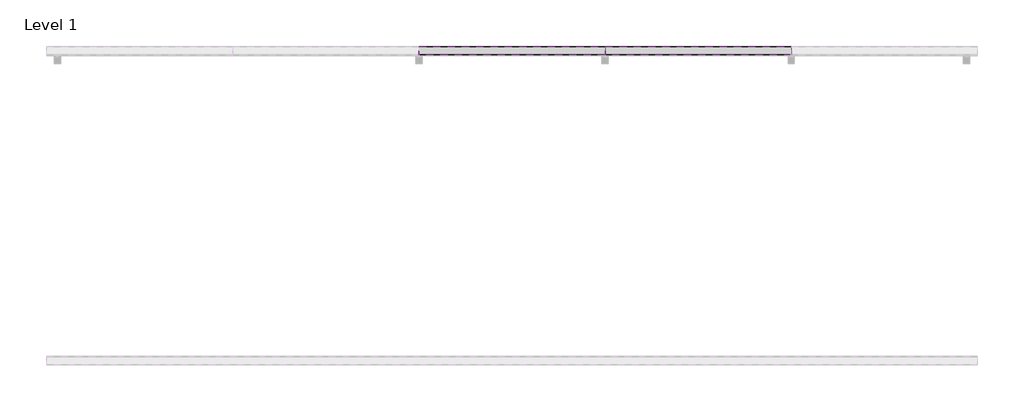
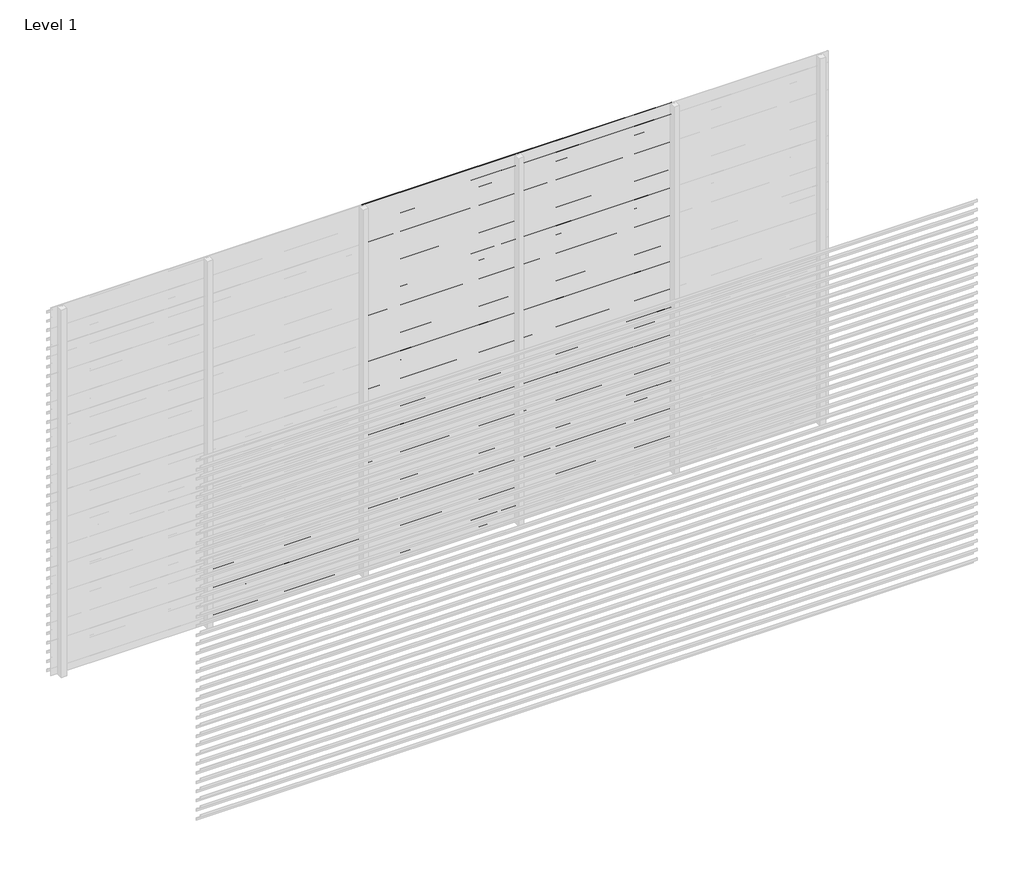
# One storey, part 27 of 55: 84 proxies.
"""IFC4 building model written with IfcOpenShell, lengths in millimetres."""

from ifc_helpers import new_model, si_unit, frame, origin, place, context, project, spatial, polyline, outline, extrude, element, save

model = new_model("IFC4")

# Units and contexts
model_context = context("Model", 3, world=origin())
ifc_project = project(units=[si_unit("LENGTHUNIT", "METRE", prefix="MILLI")], contexts=[model_context])

# Site, building, storey
site = spatial("IfcSite", under=ifc_project)
building = spatial("IfcBuilding", under=site)
storey = spatial("IfcBuildingStorey", under=building, Name="Level 1", Elevation=0.0)

# Proxies
placement = place(None, origin())
element("IfcBuildingElementProxy", 1, Name="Wall Sweeps", at=placement, inside=storey, context=model_context, shape_type="SweptSolid", body=[
    extrude(outline(polyline([(36581.0540136, 393.5), (36581.0540136, 373.5), (36579.8040136, 374.2216933), (36579.8040136, 392.7872415), (36526.0540136, 430.3158044), (36526.0540136, 450.0), (36527.3040136, 450.0), (36527.3040136, 431.0285629), (36581.0540136, 393.5)])), frame((1666.6208099, 0.0, 0.0), z_axis=(1.0, 0.0, 0.0), x_axis=(0.0, 1.0, 0.0)), (0.0, 0.0, 1.0), 1199.9999999),
])
element("IfcBuildingElementProxy", 2, Name="Wall Sweeps", at=placement, inside=storey, context=model_context, shape_type="SweptSolid", body=[
    extrude(outline(polyline([(36581.0540136, 318.5), (36581.0540136, 298.5), (36579.8040136, 299.2216933), (36579.8040136, 317.7872415), (36526.0540136, 355.3158044), (36526.0540136, 375.0), (36527.3040136, 375.0), (36527.3040136, 356.0285629), (36581.0540136, 318.5)])), frame((1666.6208099, 0.0, 0.0), z_axis=(1.0, 0.0, 0.0), x_axis=(0.0, 1.0, 0.0)), (0.0, 0.0, 1.0), 1199.9999999),
])
element("IfcBuildingElementProxy", 3, Name="Wall Sweeps", at=placement, inside=storey, context=model_context, shape_type="SweptSolid", body=[
    extrude(outline(polyline([(36581.0540136, 243.5), (36581.0540136, 223.5), (36579.8040136, 224.2216933), (36579.8040136, 242.7872415), (36526.0540136, 280.3158044), (36526.0540136, 300.0), (36527.3040136, 300.0), (36527.3040136, 281.0285629), (36581.0540136, 243.5)])), frame((1666.6208099, 0.0, 0.0), z_axis=(1.0, 0.0, 0.0), x_axis=(0.0, 1.0, 0.0)), (0.0, 0.0, 1.0), 1199.9999999),
])
element("IfcBuildingElementProxy", 4, Name="Wall Sweeps", at=placement, inside=storey, context=model_context, shape_type="SweptSolid", body=[
    extrude(outline(polyline([(36581.0540136, 168.5), (36581.0540136, 148.5), (36579.8040136, 149.2216933), (36579.8040136, 167.7872415), (36526.0540136, 205.3158044), (36526.0540136, 225.0), (36527.3040136, 225.0), (36527.3040136, 206.0285629), (36581.0540136, 168.5)])), frame((1666.6208099, 0.0, 0.0), z_axis=(1.0, 0.0, 0.0), x_axis=(0.0, 1.0, 0.0)), (0.0, 0.0, 1.0), 1199.9999999),
])
element("IfcBuildingElementProxy", 5, Name="Wall Sweeps", at=placement, inside=storey, context=model_context, shape_type="SweptSolid", body=[
    extrude(outline(polyline([(36581.0540136, 93.5), (36581.0540136, 73.5), (36579.8040136, 74.2216933), (36579.8040136, 92.7872415), (36526.0540136, 130.3158044), (36526.0540136, 150.0), (36527.3040136, 150.0), (36527.3040136, 131.0285629), (36581.0540136, 93.5)])), frame((1666.6208099, 0.0, 0.0), z_axis=(1.0, 0.0, 0.0), x_axis=(0.0, 1.0, 0.0)), (0.0, 0.0, 1.0), 1199.9999999),
])
element("IfcBuildingElementProxy", 6, Name="Wall Sweeps", at=placement, inside=storey, context=model_context, shape_type="SweptSolid", body=[
    extrude(outline(polyline([(36581.0540136, 18.5), (36581.0540136, -1.5), (36579.8040136, -0.7783067), (36579.8040136, 17.7872415), (36526.0540136, 55.3158044), (36526.0540136, 75.0), (36527.3040136, 75.0), (36527.3040136, 56.0285629), (36581.0540136, 18.5)])), frame((1666.6208099, 0.0, 0.0), z_axis=(1.0, 0.0, 0.0), x_axis=(0.0, 1.0, 0.0)), (0.0, 0.0, 1.0), 1199.9999999),
])
element("IfcBuildingElementProxy", 7, Name="Wall Sweeps", at=placement, inside=storey, context=model_context, shape_type="SweptSolid", body=[
    extrude(outline(polyline([(36581.0540136, 2943.5), (36581.0540136, 2923.5), (36579.8040136, 2924.2216933), (36579.8040136, 2942.7872415), (36526.0540136, 2980.3158044), (36526.0540136, 3000.0), (36527.3040136, 3000.0), (36527.3040136, 2981.0285629), (36581.0540136, 2943.5)])), frame((2866.6208097, 0.0, 0.0), z_axis=(1.0, 0.0, 0.0), x_axis=(0.0, 1.0, 0.0)), (0.0, 0.0, 1.0), 1199.9999999),
])
element("IfcBuildingElementProxy", 8, Name="Wall Sweeps", at=placement, inside=storey, context=model_context, shape_type="SweptSolid", body=[
    extrude(outline(polyline([(36581.0540136, 2868.5), (36581.0540136, 2848.5), (36579.8040136, 2849.2216933), (36579.8040136, 2867.7872415), (36526.0540136, 2905.3158044), (36526.0540136, 2925.0), (36527.3040136, 2925.0), (36527.3040136, 2906.0285629), (36581.0540136, 2868.5)])), frame((2866.6208097, 0.0, 0.0), z_axis=(1.0, 0.0, 0.0), x_axis=(0.0, 1.0, 0.0)), (0.0, 0.0, 1.0), 1199.9999999),
])
element("IfcBuildingElementProxy", 9, Name="Wall Sweeps", at=placement, inside=storey, context=model_context, shape_type="SweptSolid", body=[
    extrude(outline(polyline([(36581.0540136, 2793.5), (36581.0540136, 2773.5), (36579.8040136, 2774.2216933), (36579.8040136, 2792.7872415), (36526.0540136, 2830.3158044), (36526.0540136, 2850.0), (36527.3040136, 2850.0), (36527.3040136, 2831.0285629), (36581.0540136, 2793.5)])), frame((2866.6208097, 0.0, 0.0), z_axis=(1.0, 0.0, 0.0), x_axis=(0.0, 1.0, 0.0)), (0.0, 0.0, 1.0), 1199.9999999),
])
element("IfcBuildingElementProxy", 10, Name="Wall Sweeps", at=placement, inside=storey, context=model_context, shape_type="SweptSolid", body=[
    extrude(outline(polyline([(36581.0540136, 2718.5), (36581.0540136, 2698.5), (36579.8040136, 2699.2216933), (36579.8040136, 2717.7872415), (36526.0540136, 2755.3158044), (36526.0540136, 2775.0), (36527.3040136, 2775.0), (36527.3040136, 2756.0285629), (36581.0540136, 2718.5)])), frame((2866.6208097, 0.0, 0.0), z_axis=(1.0, 0.0, 0.0), x_axis=(0.0, 1.0, 0.0)), (0.0, 0.0, 1.0), 1199.9999999),
])
element("IfcBuildingElementProxy", 11, Name="Wall Sweeps", at=placement, inside=storey, context=model_context, shape_type="SweptSolid", body=[
    extrude(outline(polyline([(36581.0540136, 2643.5), (36581.0540136, 2623.5), (36579.8040136, 2624.2216933), (36579.8040136, 2642.7872415), (36526.0540136, 2680.3158044), (36526.0540136, 2700.0), (36527.3040136, 2700.0), (36527.3040136, 2681.0285629), (36581.0540136, 2643.5)])), frame((2866.6208097, 0.0, 0.0), z_axis=(1.0, 0.0, 0.0), x_axis=(0.0, 1.0, 0.0)), (0.0, 0.0, 1.0), 1199.9999999),
])
element("IfcBuildingElementProxy", 12, Name="Wall Sweeps", at=placement, inside=storey, context=model_context, shape_type="SweptSolid", body=[
    extrude(outline(polyline([(36581.0540136, 2568.5), (36581.0540136, 2548.5), (36579.8040136, 2549.2216933), (36579.8040136, 2567.7872415), (36526.0540136, 2605.3158044), (36526.0540136, 2625.0), (36527.3040136, 2625.0), (36527.3040136, 2606.0285629), (36581.0540136, 2568.5)])), frame((2866.6208097, 0.0, 0.0), z_axis=(1.0, 0.0, 0.0), x_axis=(0.0, 1.0, 0.0)), (0.0, 0.0, 1.0), 1199.9999999),
])
element("IfcBuildingElementProxy", 13, Name="Wall Sweeps", at=placement, inside=storey, context=model_context, shape_type="SweptSolid", body=[
    extrude(outline(polyline([(36581.0540136, 2493.5), (36581.0540136, 2473.5), (36579.8040136, 2474.2216933), (36579.8040136, 2492.7872415), (36526.0540136, 2530.3158044), (36526.0540136, 2550.0), (36527.3040136, 2550.0), (36527.3040136, 2531.0285629), (36581.0540136, 2493.5)])), frame((2866.6208097, 0.0, 0.0), z_axis=(1.0, 0.0, 0.0), x_axis=(0.0, 1.0, 0.0)), (0.0, 0.0, 1.0), 1199.9999999),
])
element("IfcBuildingElementProxy", 14, Name="Wall Sweeps", at=placement, inside=storey, context=model_context, shape_type="SweptSolid", body=[
    extrude(outline(polyline([(36581.0540136, 2418.5), (36581.0540136, 2398.5), (36579.8040136, 2399.2216933), (36579.8040136, 2417.7872415), (36526.0540136, 2455.3158044), (36526.0540136, 2475.0), (36527.3040136, 2475.0), (36527.3040136, 2456.0285629), (36581.0540136, 2418.5)])), frame((2866.6208097, 0.0, 0.0), z_axis=(1.0, 0.0, 0.0), x_axis=(0.0, 1.0, 0.0)), (0.0, 0.0, 1.0), 1199.9999999),
])
element("IfcBuildingElementProxy", 15, Name="Wall Sweeps", at=placement, inside=storey, context=model_context, shape_type="SweptSolid", body=[
    extrude(outline(polyline([(36581.0540136, 2343.5), (36581.0540136, 2323.5), (36579.8040136, 2324.2216933), (36579.8040136, 2342.7872415), (36526.0540136, 2380.3158044), (36526.0540136, 2400.0), (36527.3040136, 2400.0), (36527.3040136, 2381.0285629), (36581.0540136, 2343.5)])), frame((2866.6208097, 0.0, 0.0), z_axis=(1.0, 0.0, 0.0), x_axis=(0.0, 1.0, 0.0)), (0.0, 0.0, 1.0), 1199.9999999),
])
element("IfcBuildingElementProxy", 16, Name="Wall Sweeps", at=placement, inside=storey, context=model_context, shape_type="SweptSolid", body=[
    extrude(outline(polyline([(36581.0540136, 2268.5), (36581.0540136, 2248.5), (36579.8040136, 2249.2216933), (36579.8040136, 2267.7872415), (36526.0540136, 2305.3158044), (36526.0540136, 2325.0), (36527.3040136, 2325.0), (36527.3040136, 2306.0285629), (36581.0540136, 2268.5)])), frame((2866.6208097, 0.0, 0.0), z_axis=(1.0, 0.0, 0.0), x_axis=(0.0, 1.0, 0.0)), (0.0, 0.0, 1.0), 1199.9999999),
])
element("IfcBuildingElementProxy", 17, Name="Wall Sweeps", at=placement, inside=storey, context=model_context, shape_type="SweptSolid", body=[
    extrude(outline(polyline([(36581.0540136, 2193.5), (36581.0540136, 2173.5), (36579.8040136, 2174.2216933), (36579.8040136, 2192.7872415), (36526.0540136, 2230.3158044), (36526.0540136, 2250.0), (36527.3040136, 2250.0), (36527.3040136, 2231.0285629), (36581.0540136, 2193.5)])), frame((2866.6208097, 0.0, 0.0), z_axis=(1.0, 0.0, 0.0), x_axis=(0.0, 1.0, 0.0)), (0.0, 0.0, 1.0), 1199.9999999),
])
element("IfcBuildingElementProxy", 18, Name="Wall Sweeps", at=placement, inside=storey, context=model_context, shape_type="SweptSolid", body=[
    extrude(outline(polyline([(36581.0540136, 2118.5), (36581.0540136, 2098.5), (36579.8040136, 2099.2216933), (36579.8040136, 2117.7872415), (36526.0540136, 2155.3158044), (36526.0540136, 2175.0), (36527.3040136, 2175.0), (36527.3040136, 2156.0285629), (36581.0540136, 2118.5)])), frame((2866.6208097, 0.0, 0.0), z_axis=(1.0, 0.0, 0.0), x_axis=(0.0, 1.0, 0.0)), (0.0, 0.0, 1.0), 1199.9999999),
])
element("IfcBuildingElementProxy", 19, Name="Wall Sweeps", at=placement, inside=storey, context=model_context, shape_type="SweptSolid", body=[
    extrude(outline(polyline([(36581.0540136, 2043.5), (36581.0540136, 2023.5), (36579.8040136, 2024.2216933), (36579.8040136, 2042.7872415), (36526.0540136, 2080.3158044), (36526.0540136, 2100.0), (36527.3040136, 2100.0), (36527.3040136, 2081.0285629), (36581.0540136, 2043.5)])), frame((2866.6208097, 0.0, 0.0), z_axis=(1.0, 0.0, 0.0), x_axis=(0.0, 1.0, 0.0)), (0.0, 0.0, 1.0), 1199.9999999),
])
element("IfcBuildingElementProxy", 20, Name="Wall Sweeps", at=placement, inside=storey, context=model_context, shape_type="SweptSolid", body=[
    extrude(outline(polyline([(36581.0540136, 1968.5), (36581.0540136, 1948.5), (36579.8040136, 1949.2216933), (36579.8040136, 1967.7872415), (36526.0540136, 2005.3158044), (36526.0540136, 2025.0), (36527.3040136, 2025.0), (36527.3040136, 2006.0285629), (36581.0540136, 1968.5)])), frame((2866.6208097, 0.0, 0.0), z_axis=(1.0, 0.0, 0.0), x_axis=(0.0, 1.0, 0.0)), (0.0, 0.0, 1.0), 1199.9999999),
])
element("IfcBuildingElementProxy", 21, Name="Wall Sweeps", at=placement, inside=storey, context=model_context, shape_type="SweptSolid", body=[
    extrude(outline(polyline([(36581.0540136, 1893.5), (36581.0540136, 1873.5), (36579.8040136, 1874.2216933), (36579.8040136, 1892.7872415), (36526.0540136, 1930.3158044), (36526.0540136, 1950.0), (36527.3040136, 1950.0), (36527.3040136, 1931.0285629), (36581.0540136, 1893.5)])), frame((2866.6208097, 0.0, 0.0), z_axis=(1.0, 0.0, 0.0), x_axis=(0.0, 1.0, 0.0)), (0.0, 0.0, 1.0), 1199.9999999),
])
element("IfcBuildingElementProxy", 22, Name="Wall Sweeps", at=placement, inside=storey, context=model_context, shape_type="SweptSolid", body=[
    extrude(outline(polyline([(36581.0540136, 1818.5), (36581.0540136, 1798.5), (36579.8040136, 1799.2216933), (36579.8040136, 1817.7872415), (36526.0540136, 1855.3158044), (36526.0540136, 1875.0), (36527.3040136, 1875.0), (36527.3040136, 1856.0285629), (36581.0540136, 1818.5)])), frame((2866.6208097, 0.0, 0.0), z_axis=(1.0, 0.0, 0.0), x_axis=(0.0, 1.0, 0.0)), (0.0, 0.0, 1.0), 1199.9999999),
])
element("IfcBuildingElementProxy", 23, Name="Wall Sweeps", at=placement, inside=storey, context=model_context, shape_type="SweptSolid", body=[
    extrude(outline(polyline([(36581.0540136, 1743.5), (36581.0540136, 1723.5), (36579.8040136, 1724.2216933), (36579.8040136, 1742.7872415), (36526.0540136, 1780.3158044), (36526.0540136, 1800.0), (36527.3040136, 1800.0), (36527.3040136, 1781.0285629), (36581.0540136, 1743.5)])), frame((2866.6208097, 0.0, 0.0), z_axis=(1.0, 0.0, 0.0), x_axis=(0.0, 1.0, 0.0)), (0.0, 0.0, 1.0), 1199.9999999),
])
element("IfcBuildingElementProxy", 24, Name="Wall Sweeps", at=placement, inside=storey, context=model_context, shape_type="SweptSolid", body=[
    extrude(outline(polyline([(36581.0540136, 1668.5), (36581.0540136, 1648.5), (36579.8040136, 1649.2216933), (36579.8040136, 1667.7872415), (36526.0540136, 1705.3158044), (36526.0540136, 1725.0), (36527.3040136, 1725.0), (36527.3040136, 1706.0285629), (36581.0540136, 1668.5)])), frame((2866.6208097, 0.0, 0.0), z_axis=(1.0, 0.0, 0.0), x_axis=(0.0, 1.0, 0.0)), (0.0, 0.0, 1.0), 1199.9999999),
])
element("IfcBuildingElementProxy", 25, Name="Wall Sweeps", at=placement, inside=storey, context=model_context, shape_type="SweptSolid", body=[
    extrude(outline(polyline([(36581.0540136, 1593.5), (36581.0540136, 1573.5), (36579.8040136, 1574.2216933), (36579.8040136, 1592.7872415), (36526.0540136, 1630.3158044), (36526.0540136, 1650.0), (36527.3040136, 1650.0), (36527.3040136, 1631.0285629), (36581.0540136, 1593.5)])), frame((2866.6208097, 0.0, 0.0), z_axis=(1.0, 0.0, 0.0), x_axis=(0.0, 1.0, 0.0)), (0.0, 0.0, 1.0), 1199.9999999),
])
element("IfcBuildingElementProxy", 26, Name="Wall Sweeps", at=placement, inside=storey, context=model_context, shape_type="SweptSolid", body=[
    extrude(outline(polyline([(36581.0540136, 1518.5), (36581.0540136, 1498.5), (36579.8040136, 1499.2216933), (36579.8040136, 1517.7872415), (36526.0540136, 1555.3158044), (36526.0540136, 1575.0), (36527.3040136, 1575.0), (36527.3040136, 1556.0285629), (36581.0540136, 1518.5)])), frame((2866.6208097, 0.0, 0.0), z_axis=(1.0, 0.0, 0.0), x_axis=(0.0, 1.0, 0.0)), (0.0, 0.0, 1.0), 1199.9999999),
])
element("IfcBuildingElementProxy", 27, Name="Wall Sweeps", at=placement, inside=storey, context=model_context, shape_type="SweptSolid", body=[
    extrude(outline(polyline([(36581.0540136, 1443.5), (36581.0540136, 1423.5), (36579.8040136, 1424.2216933), (36579.8040136, 1442.7872415), (36526.0540136, 1480.3158044), (36526.0540136, 1500.0), (36527.3040136, 1500.0), (36527.3040136, 1481.0285629), (36581.0540136, 1443.5)])), frame((2866.6208097, 0.0, 0.0), z_axis=(1.0, 0.0, 0.0), x_axis=(0.0, 1.0, 0.0)), (0.0, 0.0, 1.0), 1199.9999999),
])
element("IfcBuildingElementProxy", 28, Name="Wall Sweeps", at=placement, inside=storey, context=model_context, shape_type="SweptSolid", body=[
    extrude(outline(polyline([(36581.0540136, 1368.5), (36581.0540136, 1348.5), (36579.8040136, 1349.2216933), (36579.8040136, 1367.7872415), (36526.0540136, 1405.3158044), (36526.0540136, 1425.0), (36527.3040136, 1425.0), (36527.3040136, 1406.0285629), (36581.0540136, 1368.5)])), frame((2866.6208097, 0.0, 0.0), z_axis=(1.0, 0.0, 0.0), x_axis=(0.0, 1.0, 0.0)), (0.0, 0.0, 1.0), 1199.9999999),
])
element("IfcBuildingElementProxy", 29, Name="Wall Sweeps", at=placement, inside=storey, context=model_context, shape_type="SweptSolid", body=[
    extrude(outline(polyline([(36581.0540136, 1293.5), (36581.0540136, 1273.5), (36579.8040136, 1274.2216933), (36579.8040136, 1292.7872415), (36526.0540136, 1330.3158044), (36526.0540136, 1350.0), (36527.3040136, 1350.0), (36527.3040136, 1331.0285629), (36581.0540136, 1293.5)])), frame((2866.6208097, 0.0, 0.0), z_axis=(1.0, 0.0, 0.0), x_axis=(0.0, 1.0, 0.0)), (0.0, 0.0, 1.0), 1199.9999999),
])
element("IfcBuildingElementProxy", 30, Name="Wall Sweeps", at=placement, inside=storey, context=model_context, shape_type="SweptSolid", body=[
    extrude(outline(polyline([(36581.0540136, 1218.5), (36581.0540136, 1198.5), (36579.8040136, 1199.2216933), (36579.8040136, 1217.7872415), (36526.0540136, 1255.3158044), (36526.0540136, 1275.0), (36527.3040136, 1275.0), (36527.3040136, 1256.0285629), (36581.0540136, 1218.5)])), frame((2866.6208097, 0.0, 0.0), z_axis=(1.0, 0.0, 0.0), x_axis=(0.0, 1.0, 0.0)), (0.0, 0.0, 1.0), 1199.9999999),
])
element("IfcBuildingElementProxy", 31, Name="Wall Sweeps", at=placement, inside=storey, context=model_context, shape_type="SweptSolid", body=[
    extrude(outline(polyline([(36581.0540136, 1143.5), (36581.0540136, 1123.5), (36579.8040136, 1124.2216933), (36579.8040136, 1142.7872415), (36526.0540136, 1180.3158044), (36526.0540136, 1200.0), (36527.3040136, 1200.0), (36527.3040136, 1181.0285629), (36581.0540136, 1143.5)])), frame((2866.6208097, 0.0, 0.0), z_axis=(1.0, 0.0, 0.0), x_axis=(0.0, 1.0, 0.0)), (0.0, 0.0, 1.0), 1199.9999999),
])
element("IfcBuildingElementProxy", 32, Name="Wall Sweeps", at=placement, inside=storey, context=model_context, shape_type="SweptSolid", body=[
    extrude(outline(polyline([(36581.0540136, 1068.5), (36581.0540136, 1048.5), (36579.8040136, 1049.2216933), (36579.8040136, 1067.7872415), (36526.0540136, 1105.3158044), (36526.0540136, 1125.0), (36527.3040136, 1125.0), (36527.3040136, 1106.0285629), (36581.0540136, 1068.5)])), frame((2866.6208097, 0.0, 0.0), z_axis=(1.0, 0.0, 0.0), x_axis=(0.0, 1.0, 0.0)), (0.0, 0.0, 1.0), 1199.9999999),
])
element("IfcBuildingElementProxy", 33, Name="Wall Sweeps", at=placement, inside=storey, context=model_context, shape_type="SweptSolid", body=[
    extrude(outline(polyline([(36581.0540136, 993.5), (36581.0540136, 973.5), (36579.8040136, 974.2216933), (36579.8040136, 992.7872415), (36526.0540136, 1030.3158044), (36526.0540136, 1050.0), (36527.3040136, 1050.0), (36527.3040136, 1031.0285629), (36581.0540136, 993.5)])), frame((2866.6208097, 0.0, 0.0), z_axis=(1.0, 0.0, 0.0), x_axis=(0.0, 1.0, 0.0)), (0.0, 0.0, 1.0), 1199.9999999),
])
element("IfcBuildingElementProxy", 34, Name="Wall Sweeps", at=placement, inside=storey, context=model_context, shape_type="SweptSolid", body=[
    extrude(outline(polyline([(36581.0540136, 918.5), (36581.0540136, 898.5), (36579.8040136, 899.2216933), (36579.8040136, 917.7872415), (36526.0540136, 955.3158044), (36526.0540136, 975.0), (36527.3040136, 975.0), (36527.3040136, 956.0285629), (36581.0540136, 918.5)])), frame((2866.6208097, 0.0, 0.0), z_axis=(1.0, 0.0, 0.0), x_axis=(0.0, 1.0, 0.0)), (0.0, 0.0, 1.0), 1199.9999999),
])
element("IfcBuildingElementProxy", 35, Name="Wall Sweeps", at=placement, inside=storey, context=model_context, shape_type="SweptSolid", body=[
    extrude(outline(polyline([(36581.0540136, 843.5), (36581.0540136, 823.5), (36579.8040136, 824.2216933), (36579.8040136, 842.7872415), (36526.0540136, 880.3158044), (36526.0540136, 900.0), (36527.3040136, 900.0), (36527.3040136, 881.0285629), (36581.0540136, 843.5)])), frame((2866.6208097, 0.0, 0.0), z_axis=(1.0, 0.0, 0.0), x_axis=(0.0, 1.0, 0.0)), (0.0, 0.0, 1.0), 1199.9999999),
])
element("IfcBuildingElementProxy", 36, Name="Wall Sweeps", at=placement, inside=storey, context=model_context, shape_type="SweptSolid", body=[
    extrude(outline(polyline([(36581.0540136, 768.5), (36581.0540136, 748.5), (36579.8040136, 749.2216933), (36579.8040136, 767.7872415), (36526.0540136, 805.3158044), (36526.0540136, 825.0), (36527.3040136, 825.0), (36527.3040136, 806.0285629), (36581.0540136, 768.5)])), frame((2866.6208097, 0.0, 0.0), z_axis=(1.0, 0.0, 0.0), x_axis=(0.0, 1.0, 0.0)), (0.0, 0.0, 1.0), 1199.9999999),
])
element("IfcBuildingElementProxy", 37, Name="Wall Sweeps", at=placement, inside=storey, context=model_context, shape_type="SweptSolid", body=[
    extrude(outline(polyline([(36581.0540136, 693.5), (36581.0540136, 673.5), (36579.8040136, 674.2216933), (36579.8040136, 692.7872415), (36526.0540136, 730.3158044), (36526.0540136, 750.0), (36527.3040136, 750.0), (36527.3040136, 731.0285629), (36581.0540136, 693.5)])), frame((2866.6208097, 0.0, 0.0), z_axis=(1.0, 0.0, 0.0), x_axis=(0.0, 1.0, 0.0)), (0.0, 0.0, 1.0), 1199.9999999),
])
element("IfcBuildingElementProxy", 38, Name="Wall Sweeps", at=placement, inside=storey, context=model_context, shape_type="SweptSolid", body=[
    extrude(outline(polyline([(36581.0540136, 618.5), (36581.0540136, 598.5), (36579.8040136, 599.2216933), (36579.8040136, 617.7872415), (36526.0540136, 655.3158044), (36526.0540136, 675.0), (36527.3040136, 675.0), (36527.3040136, 656.0285629), (36581.0540136, 618.5)])), frame((2866.6208097, 0.0, 0.0), z_axis=(1.0, 0.0, 0.0), x_axis=(0.0, 1.0, 0.0)), (0.0, 0.0, 1.0), 1199.9999999),
])
element("IfcBuildingElementProxy", 39, Name="Wall Sweeps", at=placement, inside=storey, context=model_context, shape_type="SweptSolid", body=[
    extrude(outline(polyline([(36581.0540136, 543.5), (36581.0540136, 523.5), (36579.8040136, 524.2216933), (36579.8040136, 542.7872415), (36526.0540136, 580.3158044), (36526.0540136, 600.0), (36527.3040136, 600.0), (36527.3040136, 581.0285629), (36581.0540136, 543.5)])), frame((2866.6208097, 0.0, 0.0), z_axis=(1.0, 0.0, 0.0), x_axis=(0.0, 1.0, 0.0)), (0.0, 0.0, 1.0), 1199.9999999),
])
element("IfcBuildingElementProxy", 40, Name="Wall Sweeps", at=placement, inside=storey, context=model_context, shape_type="SweptSolid", body=[
    extrude(outline(polyline([(36581.0540136, 468.5), (36581.0540136, 448.5), (36579.8040136, 449.2216933), (36579.8040136, 467.7872415), (36526.0540136, 505.3158044), (36526.0540136, 525.0), (36527.3040136, 525.0), (36527.3040136, 506.0285629), (36581.0540136, 468.5)])), frame((2866.6208097, 0.0, 0.0), z_axis=(1.0, 0.0, 0.0), x_axis=(0.0, 1.0, 0.0)), (0.0, 0.0, 1.0), 1199.9999999),
])
element("IfcBuildingElementProxy", 41, Name="Wall Sweeps", at=placement, inside=storey, context=model_context, shape_type="SweptSolid", body=[
    extrude(outline(polyline([(36581.0540136, 393.5), (36581.0540136, 373.5), (36579.8040136, 374.2216933), (36579.8040136, 392.7872415), (36526.0540136, 430.3158044), (36526.0540136, 450.0), (36527.3040136, 450.0), (36527.3040136, 431.0285629), (36581.0540136, 393.5)])), frame((2866.6208097, 0.0, 0.0), z_axis=(1.0, 0.0, 0.0), x_axis=(0.0, 1.0, 0.0)), (0.0, 0.0, 1.0), 1199.9999999),
])
element("IfcBuildingElementProxy", 42, Name="Wall Sweeps", at=placement, inside=storey, context=model_context, shape_type="SweptSolid", body=[
    extrude(outline(polyline([(36581.0540136, 318.5), (36581.0540136, 298.5), (36579.8040136, 299.2216933), (36579.8040136, 317.7872415), (36526.0540136, 355.3158044), (36526.0540136, 375.0), (36527.3040136, 375.0), (36527.3040136, 356.0285629), (36581.0540136, 318.5)])), frame((2866.6208097, 0.0, 0.0), z_axis=(1.0, 0.0, 0.0), x_axis=(0.0, 1.0, 0.0)), (0.0, 0.0, 1.0), 1199.9999999),
])
element("IfcBuildingElementProxy", 43, Name="Wall Sweeps", at=placement, inside=storey, context=model_context, shape_type="SweptSolid", body=[
    extrude(outline(polyline([(36581.0540136, 243.5), (36581.0540136, 223.5), (36579.8040136, 224.2216933), (36579.8040136, 242.7872415), (36526.0540136, 280.3158044), (36526.0540136, 300.0), (36527.3040136, 300.0), (36527.3040136, 281.0285629), (36581.0540136, 243.5)])), frame((2866.6208097, 0.0, 0.0), z_axis=(1.0, 0.0, 0.0), x_axis=(0.0, 1.0, 0.0)), (0.0, 0.0, 1.0), 1199.9999999),
])
element("IfcBuildingElementProxy", 44, Name="Wall Sweeps", at=placement, inside=storey, context=model_context, shape_type="SweptSolid", body=[
    extrude(outline(polyline([(36581.0540136, 168.5), (36581.0540136, 148.5), (36579.8040136, 149.2216933), (36579.8040136, 167.7872415), (36526.0540136, 205.3158044), (36526.0540136, 225.0), (36527.3040136, 225.0), (36527.3040136, 206.0285629), (36581.0540136, 168.5)])), frame((2866.6208097, 0.0, 0.0), z_axis=(1.0, 0.0, 0.0), x_axis=(0.0, 1.0, 0.0)), (0.0, 0.0, 1.0), 1199.9999999),
])
element("IfcBuildingElementProxy", 45, Name="Wall Sweeps", at=placement, inside=storey, context=model_context, shape_type="SweptSolid", body=[
    extrude(outline(polyline([(36581.0540136, 93.5), (36581.0540136, 73.5), (36579.8040136, 74.2216933), (36579.8040136, 92.7872415), (36526.0540136, 130.3158044), (36526.0540136, 150.0), (36527.3040136, 150.0), (36527.3040136, 131.0285629), (36581.0540136, 93.5)])), frame((2866.6208097, 0.0, 0.0), z_axis=(1.0, 0.0, 0.0), x_axis=(0.0, 1.0, 0.0)), (0.0, 0.0, 1.0), 1199.9999999),
])
element("IfcBuildingElementProxy", 46, Name="Wall Sweeps", at=placement, inside=storey, context=model_context, shape_type="SweptSolid", body=[
    extrude(outline(polyline([(36581.0540136, 18.5), (36581.0540136, -1.5), (36579.8040136, -0.7783067), (36579.8040136, 17.7872415), (36526.0540136, 55.3158044), (36526.0540136, 75.0), (36527.3040136, 75.0), (36527.3040136, 56.0285629), (36581.0540136, 18.5)])), frame((2866.6208097, 0.0, 0.0), z_axis=(1.0, 0.0, 0.0), x_axis=(0.0, 1.0, 0.0)), (0.0, 0.0, 1.0), 1199.9999999),
])
element("IfcBuildingElementProxy", 47, Name="Wall Sweeps", at=placement, inside=storey, context=model_context, shape_type="SweptSolid", body=[
    extrude(outline(polyline([(36581.0540136, 2943.5), (36581.0540136, 2923.5), (36579.8040136, 2924.2216933), (36579.8040136, 2942.7872415), (36526.0540136, 2980.3158044), (36526.0540136, 3000.0), (36527.3040136, 3000.0), (36527.3040136, 2981.0285629), (36581.0540136, 2943.5)])), frame((4066.6208096, 0.0, 0.0), z_axis=(1.0, 0.0, 0.0), x_axis=(0.0, 1.0, 0.0)), (0.0, 0.0, 1.0), 1199.9999999),
])
element("IfcBuildingElementProxy", 48, Name="Wall Sweeps", at=placement, inside=storey, context=model_context, shape_type="SweptSolid", body=[
    extrude(outline(polyline([(36581.0540136, 2868.5), (36581.0540136, 2848.5), (36579.8040136, 2849.2216933), (36579.8040136, 2867.7872415), (36526.0540136, 2905.3158044), (36526.0540136, 2925.0), (36527.3040136, 2925.0), (36527.3040136, 2906.0285629), (36581.0540136, 2868.5)])), frame((4066.6208096, 0.0, 0.0), z_axis=(1.0, 0.0, 0.0), x_axis=(0.0, 1.0, 0.0)), (0.0, 0.0, 1.0), 1199.9999999),
])
element("IfcBuildingElementProxy", 49, Name="Wall Sweeps", at=placement, inside=storey, context=model_context, shape_type="SweptSolid", body=[
    extrude(outline(polyline([(36581.0540136, 2793.5), (36581.0540136, 2773.5), (36579.8040136, 2774.2216933), (36579.8040136, 2792.7872415), (36526.0540136, 2830.3158044), (36526.0540136, 2850.0), (36527.3040136, 2850.0), (36527.3040136, 2831.0285629), (36581.0540136, 2793.5)])), frame((4066.6208096, 0.0, 0.0), z_axis=(1.0, 0.0, 0.0), x_axis=(0.0, 1.0, 0.0)), (0.0, 0.0, 1.0), 1199.9999999),
])
element("IfcBuildingElementProxy", 50, Name="Wall Sweeps", at=placement, inside=storey, context=model_context, shape_type="SweptSolid", body=[
    extrude(outline(polyline([(36581.0540136, 2718.5), (36581.0540136, 2698.5), (36579.8040136, 2699.2216933), (36579.8040136, 2717.7872415), (36526.0540136, 2755.3158044), (36526.0540136, 2775.0), (36527.3040136, 2775.0), (36527.3040136, 2756.0285629), (36581.0540136, 2718.5)])), frame((4066.6208096, 0.0, 0.0), z_axis=(1.0, 0.0, 0.0), x_axis=(0.0, 1.0, 0.0)), (0.0, 0.0, 1.0), 1199.9999999),
])
element("IfcBuildingElementProxy", 51, Name="Wall Sweeps", at=placement, inside=storey, context=model_context, shape_type="SweptSolid", body=[
    extrude(outline(polyline([(36581.0540136, 2643.5), (36581.0540136, 2623.5), (36579.8040136, 2624.2216933), (36579.8040136, 2642.7872415), (36526.0540136, 2680.3158044), (36526.0540136, 2700.0), (36527.3040136, 2700.0), (36527.3040136, 2681.0285629), (36581.0540136, 2643.5)])), frame((4066.6208096, 0.0, 0.0), z_axis=(1.0, 0.0, 0.0), x_axis=(0.0, 1.0, 0.0)), (0.0, 0.0, 1.0), 1199.9999999),
])
element("IfcBuildingElementProxy", 52, Name="Wall Sweeps", at=placement, inside=storey, context=model_context, shape_type="SweptSolid", body=[
    extrude(outline(polyline([(36581.0540136, 2568.5), (36581.0540136, 2548.5), (36579.8040136, 2549.2216933), (36579.8040136, 2567.7872415), (36526.0540136, 2605.3158044), (36526.0540136, 2625.0), (36527.3040136, 2625.0), (36527.3040136, 2606.0285629), (36581.0540136, 2568.5)])), frame((4066.6208096, 0.0, 0.0), z_axis=(1.0, 0.0, 0.0), x_axis=(0.0, 1.0, 0.0)), (0.0, 0.0, 1.0), 1199.9999999),
])
element("IfcBuildingElementProxy", 53, Name="Wall Sweeps", at=placement, inside=storey, context=model_context, shape_type="SweptSolid", body=[
    extrude(outline(polyline([(36581.0540136, 2493.5), (36581.0540136, 2473.5), (36579.8040136, 2474.2216933), (36579.8040136, 2492.7872415), (36526.0540136, 2530.3158044), (36526.0540136, 2550.0), (36527.3040136, 2550.0), (36527.3040136, 2531.0285629), (36581.0540136, 2493.5)])), frame((4066.6208096, 0.0, 0.0), z_axis=(1.0, 0.0, 0.0), x_axis=(0.0, 1.0, 0.0)), (0.0, 0.0, 1.0), 1199.9999999),
])
element("IfcBuildingElementProxy", 54, Name="Wall Sweeps", at=placement, inside=storey, context=model_context, shape_type="SweptSolid", body=[
    extrude(outline(polyline([(36581.0540136, 2418.5), (36581.0540136, 2398.5), (36579.8040136, 2399.2216933), (36579.8040136, 2417.7872415), (36526.0540136, 2455.3158044), (36526.0540136, 2475.0), (36527.3040136, 2475.0), (36527.3040136, 2456.0285629), (36581.0540136, 2418.5)])), frame((4066.6208096, 0.0, 0.0), z_axis=(1.0, 0.0, 0.0), x_axis=(0.0, 1.0, 0.0)), (0.0, 0.0, 1.0), 1199.9999999),
])
element("IfcBuildingElementProxy", 55, Name="Wall Sweeps", at=placement, inside=storey, context=model_context, shape_type="SweptSolid", body=[
    extrude(outline(polyline([(36581.0540136, 2343.5), (36581.0540136, 2323.5), (36579.8040136, 2324.2216933), (36579.8040136, 2342.7872415), (36526.0540136, 2380.3158044), (36526.0540136, 2400.0), (36527.3040136, 2400.0), (36527.3040136, 2381.0285629), (36581.0540136, 2343.5)])), frame((4066.6208096, 0.0, 0.0), z_axis=(1.0, 0.0, 0.0), x_axis=(0.0, 1.0, 0.0)), (0.0, 0.0, 1.0), 1199.9999999),
])
element("IfcBuildingElementProxy", 56, Name="Wall Sweeps", at=placement, inside=storey, context=model_context, shape_type="SweptSolid", body=[
    extrude(outline(polyline([(36581.0540136, 2268.5), (36581.0540136, 2248.5), (36579.8040136, 2249.2216933), (36579.8040136, 2267.7872415), (36526.0540136, 2305.3158044), (36526.0540136, 2325.0), (36527.3040136, 2325.0), (36527.3040136, 2306.0285629), (36581.0540136, 2268.5)])), frame((4066.6208096, 0.0, 0.0), z_axis=(1.0, 0.0, 0.0), x_axis=(0.0, 1.0, 0.0)), (0.0, 0.0, 1.0), 1199.9999999),
])
element("IfcBuildingElementProxy", 57, Name="Wall Sweeps", at=placement, inside=storey, context=model_context, shape_type="SweptSolid", body=[
    extrude(outline(polyline([(36581.0540136, 2193.5), (36581.0540136, 2173.5), (36579.8040136, 2174.2216933), (36579.8040136, 2192.7872415), (36526.0540136, 2230.3158044), (36526.0540136, 2250.0), (36527.3040136, 2250.0), (36527.3040136, 2231.0285629), (36581.0540136, 2193.5)])), frame((4066.6208096, 0.0, 0.0), z_axis=(1.0, 0.0, 0.0), x_axis=(0.0, 1.0, 0.0)), (0.0, 0.0, 1.0), 1199.9999999),
])
element("IfcBuildingElementProxy", 58, Name="Wall Sweeps", at=placement, inside=storey, context=model_context, shape_type="SweptSolid", body=[
    extrude(outline(polyline([(36581.0540136, 2118.5), (36581.0540136, 2098.5), (36579.8040136, 2099.2216933), (36579.8040136, 2117.7872415), (36526.0540136, 2155.3158044), (36526.0540136, 2175.0), (36527.3040136, 2175.0), (36527.3040136, 2156.0285629), (36581.0540136, 2118.5)])), frame((4066.6208096, 0.0, 0.0), z_axis=(1.0, 0.0, 0.0), x_axis=(0.0, 1.0, 0.0)), (0.0, 0.0, 1.0), 1199.9999999),
])
element("IfcBuildingElementProxy", 59, Name="Wall Sweeps", at=placement, inside=storey, context=model_context, shape_type="SweptSolid", body=[
    extrude(outline(polyline([(36581.0540136, 2043.5), (36581.0540136, 2023.5), (36579.8040136, 2024.2216933), (36579.8040136, 2042.7872415), (36526.0540136, 2080.3158044), (36526.0540136, 2100.0), (36527.3040136, 2100.0), (36527.3040136, 2081.0285629), (36581.0540136, 2043.5)])), frame((4066.6208096, 0.0, 0.0), z_axis=(1.0, 0.0, 0.0), x_axis=(0.0, 1.0, 0.0)), (0.0, 0.0, 1.0), 1199.9999999),
])
element("IfcBuildingElementProxy", 60, Name="Wall Sweeps", at=placement, inside=storey, context=model_context, shape_type="SweptSolid", body=[
    extrude(outline(polyline([(36581.0540136, 1968.5), (36581.0540136, 1948.5), (36579.8040136, 1949.2216933), (36579.8040136, 1967.7872415), (36526.0540136, 2005.3158044), (36526.0540136, 2025.0), (36527.3040136, 2025.0), (36527.3040136, 2006.0285629), (36581.0540136, 1968.5)])), frame((4066.6208096, 0.0, 0.0), z_axis=(1.0, 0.0, 0.0), x_axis=(0.0, 1.0, 0.0)), (0.0, 0.0, 1.0), 1199.9999999),
])
element("IfcBuildingElementProxy", 61, Name="Wall Sweeps", at=placement, inside=storey, context=model_context, shape_type="SweptSolid", body=[
    extrude(outline(polyline([(36581.0540136, 1893.5), (36581.0540136, 1873.5), (36579.8040136, 1874.2216933), (36579.8040136, 1892.7872415), (36526.0540136, 1930.3158044), (36526.0540136, 1950.0), (36527.3040136, 1950.0), (36527.3040136, 1931.0285629), (36581.0540136, 1893.5)])), frame((4066.6208096, 0.0, 0.0), z_axis=(1.0, 0.0, 0.0), x_axis=(0.0, 1.0, 0.0)), (0.0, 0.0, 1.0), 1199.9999999),
])
element("IfcBuildingElementProxy", 62, Name="Wall Sweeps", at=placement, inside=storey, context=model_context, shape_type="SweptSolid", body=[
    extrude(outline(polyline([(36581.0540136, 1818.5), (36581.0540136, 1798.5), (36579.8040136, 1799.2216933), (36579.8040136, 1817.7872415), (36526.0540136, 1855.3158044), (36526.0540136, 1875.0), (36527.3040136, 1875.0), (36527.3040136, 1856.0285629), (36581.0540136, 1818.5)])), frame((4066.6208096, 0.0, 0.0), z_axis=(1.0, 0.0, 0.0), x_axis=(0.0, 1.0, 0.0)), (0.0, 0.0, 1.0), 1199.9999999),
])
element("IfcBuildingElementProxy", 63, Name="Wall Sweeps", at=placement, inside=storey, context=model_context, shape_type="SweptSolid", body=[
    extrude(outline(polyline([(36581.0540136, 1743.5), (36581.0540136, 1723.5), (36579.8040136, 1724.2216933), (36579.8040136, 1742.7872415), (36526.0540136, 1780.3158044), (36526.0540136, 1800.0), (36527.3040136, 1800.0), (36527.3040136, 1781.0285629), (36581.0540136, 1743.5)])), frame((4066.6208096, 0.0, 0.0), z_axis=(1.0, 0.0, 0.0), x_axis=(0.0, 1.0, 0.0)), (0.0, 0.0, 1.0), 1199.9999999),
])
element("IfcBuildingElementProxy", 64, Name="Wall Sweeps", at=placement, inside=storey, context=model_context, shape_type="SweptSolid", body=[
    extrude(outline(polyline([(36581.0540136, 1668.5), (36581.0540136, 1648.5), (36579.8040136, 1649.2216933), (36579.8040136, 1667.7872415), (36526.0540136, 1705.3158044), (36526.0540136, 1725.0), (36527.3040136, 1725.0), (36527.3040136, 1706.0285629), (36581.0540136, 1668.5)])), frame((4066.6208096, 0.0, 0.0), z_axis=(1.0, 0.0, 0.0), x_axis=(0.0, 1.0, 0.0)), (0.0, 0.0, 1.0), 1199.9999999),
])
element("IfcBuildingElementProxy", 65, Name="Wall Sweeps", at=placement, inside=storey, context=model_context, shape_type="SweptSolid", body=[
    extrude(outline(polyline([(36581.0540136, 1593.5), (36581.0540136, 1573.5), (36579.8040136, 1574.2216933), (36579.8040136, 1592.7872415), (36526.0540136, 1630.3158044), (36526.0540136, 1650.0), (36527.3040136, 1650.0), (36527.3040136, 1631.0285629), (36581.0540136, 1593.5)])), frame((4066.6208096, 0.0, 0.0), z_axis=(1.0, 0.0, 0.0), x_axis=(0.0, 1.0, 0.0)), (0.0, 0.0, 1.0), 1199.9999999),
])
element("IfcBuildingElementProxy", 66, Name="Wall Sweeps", at=placement, inside=storey, context=model_context, shape_type="SweptSolid", body=[
    extrude(outline(polyline([(36581.0540136, 1518.5), (36581.0540136, 1498.5), (36579.8040136, 1499.2216933), (36579.8040136, 1517.7872415), (36526.0540136, 1555.3158044), (36526.0540136, 1575.0), (36527.3040136, 1575.0), (36527.3040136, 1556.0285629), (36581.0540136, 1518.5)])), frame((4066.6208096, 0.0, 0.0), z_axis=(1.0, 0.0, 0.0), x_axis=(0.0, 1.0, 0.0)), (0.0, 0.0, 1.0), 1199.9999999),
])
element("IfcBuildingElementProxy", 67, Name="Wall Sweeps", at=placement, inside=storey, context=model_context, shape_type="SweptSolid", body=[
    extrude(outline(polyline([(36581.0540136, 1443.5), (36581.0540136, 1423.5), (36579.8040136, 1424.2216933), (36579.8040136, 1442.7872415), (36526.0540136, 1480.3158044), (36526.0540136, 1500.0), (36527.3040136, 1500.0), (36527.3040136, 1481.0285629), (36581.0540136, 1443.5)])), frame((4066.6208096, 0.0, 0.0), z_axis=(1.0, 0.0, 0.0), x_axis=(0.0, 1.0, 0.0)), (0.0, 0.0, 1.0), 1199.9999999),
])
element("IfcBuildingElementProxy", 68, Name="Wall Sweeps", at=placement, inside=storey, context=model_context, shape_type="SweptSolid", body=[
    extrude(outline(polyline([(36581.0540136, 1368.5), (36581.0540136, 1348.5), (36579.8040136, 1349.2216933), (36579.8040136, 1367.7872415), (36526.0540136, 1405.3158044), (36526.0540136, 1425.0), (36527.3040136, 1425.0), (36527.3040136, 1406.0285629), (36581.0540136, 1368.5)])), frame((4066.6208096, 0.0, 0.0), z_axis=(1.0, 0.0, 0.0), x_axis=(0.0, 1.0, 0.0)), (0.0, 0.0, 1.0), 1199.9999999),
])
element("IfcBuildingElementProxy", 69, Name="Wall Sweeps", at=placement, inside=storey, context=model_context, shape_type="SweptSolid", body=[
    extrude(outline(polyline([(36581.0540136, 1293.5), (36581.0540136, 1273.5), (36579.8040136, 1274.2216933), (36579.8040136, 1292.7872415), (36526.0540136, 1330.3158044), (36526.0540136, 1350.0), (36527.3040136, 1350.0), (36527.3040136, 1331.0285629), (36581.0540136, 1293.5)])), frame((4066.6208096, 0.0, 0.0), z_axis=(1.0, 0.0, 0.0), x_axis=(0.0, 1.0, 0.0)), (0.0, 0.0, 1.0), 1199.9999999),
])
element("IfcBuildingElementProxy", 70, Name="Wall Sweeps", at=placement, inside=storey, context=model_context, shape_type="SweptSolid", body=[
    extrude(outline(polyline([(36581.0540136, 1218.5), (36581.0540136, 1198.5), (36579.8040136, 1199.2216933), (36579.8040136, 1217.7872415), (36526.0540136, 1255.3158044), (36526.0540136, 1275.0), (36527.3040136, 1275.0), (36527.3040136, 1256.0285629), (36581.0540136, 1218.5)])), frame((4066.6208096, 0.0, 0.0), z_axis=(1.0, 0.0, 0.0), x_axis=(0.0, 1.0, 0.0)), (0.0, 0.0, 1.0), 1199.9999999),
])
element("IfcBuildingElementProxy", 71, Name="Wall Sweeps", at=placement, inside=storey, context=model_context, shape_type="SweptSolid", body=[
    extrude(outline(polyline([(36581.0540136, 1143.5), (36581.0540136, 1123.5), (36579.8040136, 1124.2216933), (36579.8040136, 1142.7872415), (36526.0540136, 1180.3158044), (36526.0540136, 1200.0), (36527.3040136, 1200.0), (36527.3040136, 1181.0285629), (36581.0540136, 1143.5)])), frame((4066.6208096, 0.0, 0.0), z_axis=(1.0, 0.0, 0.0), x_axis=(0.0, 1.0, 0.0)), (0.0, 0.0, 1.0), 1199.9999999),
])
element("IfcBuildingElementProxy", 72, Name="Wall Sweeps", at=placement, inside=storey, context=model_context, shape_type="SweptSolid", body=[
    extrude(outline(polyline([(36581.0540136, 1068.5), (36581.0540136, 1048.5), (36579.8040136, 1049.2216933), (36579.8040136, 1067.7872415), (36526.0540136, 1105.3158044), (36526.0540136, 1125.0), (36527.3040136, 1125.0), (36527.3040136, 1106.0285629), (36581.0540136, 1068.5)])), frame((4066.6208096, 0.0, 0.0), z_axis=(1.0, 0.0, 0.0), x_axis=(0.0, 1.0, 0.0)), (0.0, 0.0, 1.0), 1199.9999999),
])
element("IfcBuildingElementProxy", 73, Name="Wall Sweeps", at=placement, inside=storey, context=model_context, shape_type="SweptSolid", body=[
    extrude(outline(polyline([(36581.0540136, 993.5), (36581.0540136, 973.5), (36579.8040136, 974.2216933), (36579.8040136, 992.7872415), (36526.0540136, 1030.3158044), (36526.0540136, 1050.0), (36527.3040136, 1050.0), (36527.3040136, 1031.0285629), (36581.0540136, 993.5)])), frame((4066.6208096, 0.0, 0.0), z_axis=(1.0, 0.0, 0.0), x_axis=(0.0, 1.0, 0.0)), (0.0, 0.0, 1.0), 1199.9999999),
])
element("IfcBuildingElementProxy", 74, Name="Wall Sweeps", at=placement, inside=storey, context=model_context, shape_type="SweptSolid", body=[
    extrude(outline(polyline([(36581.0540136, 918.5), (36581.0540136, 898.5), (36579.8040136, 899.2216933), (36579.8040136, 917.7872415), (36526.0540136, 955.3158044), (36526.0540136, 975.0), (36527.3040136, 975.0), (36527.3040136, 956.0285629), (36581.0540136, 918.5)])), frame((4066.6208096, 0.0, 0.0), z_axis=(1.0, 0.0, 0.0), x_axis=(0.0, 1.0, 0.0)), (0.0, 0.0, 1.0), 1199.9999999),
])
element("IfcBuildingElementProxy", 75, Name="Wall Sweeps", at=placement, inside=storey, context=model_context, shape_type="SweptSolid", body=[
    extrude(outline(polyline([(36581.0540136, 843.5), (36581.0540136, 823.5), (36579.8040136, 824.2216933), (36579.8040136, 842.7872415), (36526.0540136, 880.3158044), (36526.0540136, 900.0), (36527.3040136, 900.0), (36527.3040136, 881.0285629), (36581.0540136, 843.5)])), frame((4066.6208096, 0.0, 0.0), z_axis=(1.0, 0.0, 0.0), x_axis=(0.0, 1.0, 0.0)), (0.0, 0.0, 1.0), 1199.9999999),
])
element("IfcBuildingElementProxy", 76, Name="Wall Sweeps", at=placement, inside=storey, context=model_context, shape_type="SweptSolid", body=[
    extrude(outline(polyline([(36581.0540136, 768.5), (36581.0540136, 748.5), (36579.8040136, 749.2216933), (36579.8040136, 767.7872415), (36526.0540136, 805.3158044), (36526.0540136, 825.0), (36527.3040136, 825.0), (36527.3040136, 806.0285629), (36581.0540136, 768.5)])), frame((4066.6208096, 0.0, 0.0), z_axis=(1.0, 0.0, 0.0), x_axis=(0.0, 1.0, 0.0)), (0.0, 0.0, 1.0), 1199.9999999),
])
element("IfcBuildingElementProxy", 77, Name="Wall Sweeps", at=placement, inside=storey, context=model_context, shape_type="SweptSolid", body=[
    extrude(outline(polyline([(36581.0540136, 693.5), (36581.0540136, 673.5), (36579.8040136, 674.2216933), (36579.8040136, 692.7872415), (36526.0540136, 730.3158044), (36526.0540136, 750.0), (36527.3040136, 750.0), (36527.3040136, 731.0285629), (36581.0540136, 693.5)])), frame((4066.6208096, 0.0, 0.0), z_axis=(1.0, 0.0, 0.0), x_axis=(0.0, 1.0, 0.0)), (0.0, 0.0, 1.0), 1199.9999999),
])
element("IfcBuildingElementProxy", 78, Name="Wall Sweeps", at=placement, inside=storey, context=model_context, shape_type="SweptSolid", body=[
    extrude(outline(polyline([(36581.0540136, 618.5), (36581.0540136, 598.5), (36579.8040136, 599.2216933), (36579.8040136, 617.7872415), (36526.0540136, 655.3158044), (36526.0540136, 675.0), (36527.3040136, 675.0), (36527.3040136, 656.0285629), (36581.0540136, 618.5)])), frame((4066.6208096, 0.0, 0.0), z_axis=(1.0, 0.0, 0.0), x_axis=(0.0, 1.0, 0.0)), (0.0, 0.0, 1.0), 1199.9999999),
])
element("IfcBuildingElementProxy", 79, Name="Wall Sweeps", at=placement, inside=storey, context=model_context, shape_type="SweptSolid", body=[
    extrude(outline(polyline([(36581.0540136, 543.5), (36581.0540136, 523.5), (36579.8040136, 524.2216933), (36579.8040136, 542.7872415), (36526.0540136, 580.3158044), (36526.0540136, 600.0), (36527.3040136, 600.0), (36527.3040136, 581.0285629), (36581.0540136, 543.5)])), frame((4066.6208096, 0.0, 0.0), z_axis=(1.0, 0.0, 0.0), x_axis=(0.0, 1.0, 0.0)), (0.0, 0.0, 1.0), 1199.9999999),
])
element("IfcBuildingElementProxy", 80, Name="Wall Sweeps", at=placement, inside=storey, context=model_context, shape_type="SweptSolid", body=[
    extrude(outline(polyline([(36581.0540136, 468.5), (36581.0540136, 448.5), (36579.8040136, 449.2216933), (36579.8040136, 467.7872415), (36526.0540136, 505.3158044), (36526.0540136, 525.0), (36527.3040136, 525.0), (36527.3040136, 506.0285629), (36581.0540136, 468.5)])), frame((4066.6208096, 0.0, 0.0), z_axis=(1.0, 0.0, 0.0), x_axis=(0.0, 1.0, 0.0)), (0.0, 0.0, 1.0), 1199.9999999),
])
element("IfcBuildingElementProxy", 81, Name="Wall Sweeps", at=placement, inside=storey, context=model_context, shape_type="SweptSolid", body=[
    extrude(outline(polyline([(36581.0540136, 393.5), (36581.0540136, 373.5), (36579.8040136, 374.2216933), (36579.8040136, 392.7872415), (36526.0540136, 430.3158044), (36526.0540136, 450.0), (36527.3040136, 450.0), (36527.3040136, 431.0285629), (36581.0540136, 393.5)])), frame((4066.6208096, 0.0, 0.0), z_axis=(1.0, 0.0, 0.0), x_axis=(0.0, 1.0, 0.0)), (0.0, 0.0, 1.0), 1199.9999999),
])
element("IfcBuildingElementProxy", 82, Name="Wall Sweeps", at=placement, inside=storey, context=model_context, shape_type="SweptSolid", body=[
    extrude(outline(polyline([(36581.0540136, 318.5), (36581.0540136, 298.5), (36579.8040136, 299.2216933), (36579.8040136, 317.7872415), (36526.0540136, 355.3158044), (36526.0540136, 375.0), (36527.3040136, 375.0), (36527.3040136, 356.0285629), (36581.0540136, 318.5)])), frame((4066.6208096, 0.0, 0.0), z_axis=(1.0, 0.0, 0.0), x_axis=(0.0, 1.0, 0.0)), (0.0, 0.0, 1.0), 1199.9999999),
])
element("IfcBuildingElementProxy", 83, Name="Wall Sweeps", at=placement, inside=storey, context=model_context, shape_type="SweptSolid", body=[
    extrude(outline(polyline([(36581.0540136, 243.5), (36581.0540136, 223.5), (36579.8040136, 224.2216933), (36579.8040136, 242.7872415), (36526.0540136, 280.3158044), (36526.0540136, 300.0), (36527.3040136, 300.0), (36527.3040136, 281.0285629), (36581.0540136, 243.5)])), frame((4066.6208096, 0.0, 0.0), z_axis=(1.0, 0.0, 0.0), x_axis=(0.0, 1.0, 0.0)), (0.0, 0.0, 1.0), 1199.9999999),
])
element("IfcBuildingElementProxy", 84, Name="Wall Sweeps", at=placement, inside=storey, context=model_context, shape_type="SweptSolid", body=[
    extrude(outline(polyline([(36581.0540136, 168.5), (36581.0540136, 148.5), (36579.8040136, 149.2216933), (36579.8040136, 167.7872415), (36526.0540136, 205.3158044), (36526.0540136, 225.0), (36527.3040136, 225.0), (36527.3040136, 206.0285629), (36581.0540136, 168.5)])), frame((4066.6208096, 0.0, 0.0), z_axis=(1.0, 0.0, 0.0), x_axis=(0.0, 1.0, 0.0)), (0.0, 0.0, 1.0), 1199.9999999),
])

save(model, "model.ifc")
